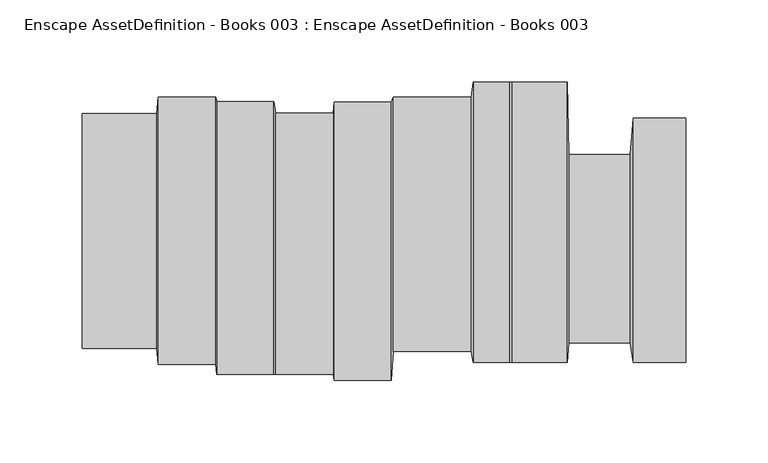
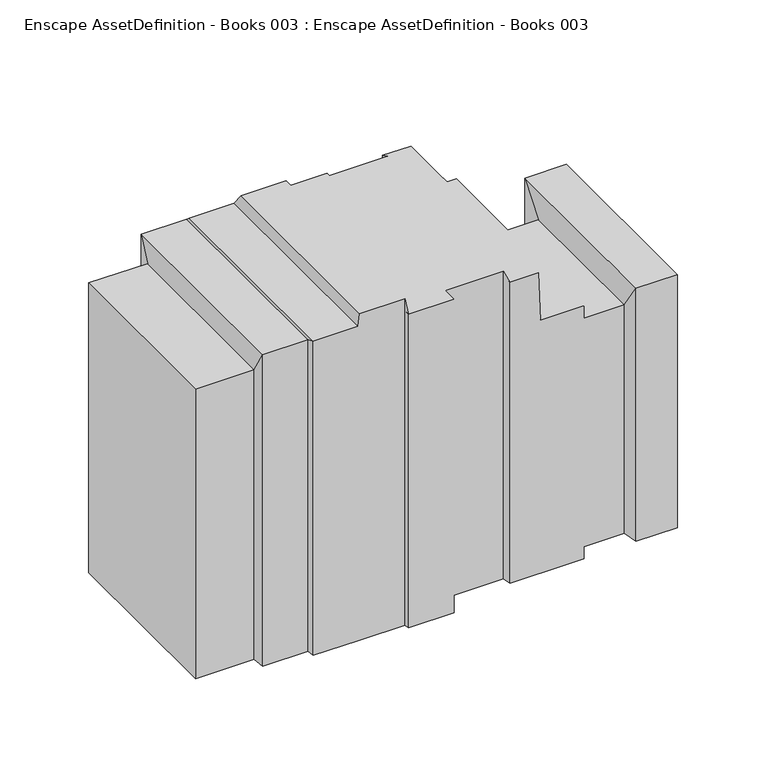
"""IFC4 building model written with IfcOpenShell, lengths in millimetres: geographic element geometry, Enscape AssetDefinition - Books 003 : Enscape AssetDefinition - Books 003."""

from ifc_helpers import new_model, si_unit, origin, place, context, project, spatial, triangles, source, transform, mapped, element, save


def enscape_assetdefinition_books_003_enscape_assetdefinition_db4c60ca(model_context):
    return source(origin(), model_context, "Body", "Tessellation", [
        triangles([(-183.8806548, -70.9984325, 236.8974586), (-183.8806548, 72.1375345, 236.8974586), (-183.8806548, -70.9984325, 0.0), (-183.8806548, 72.1375345, 0.0), (-138.4955526, 72.1375345, 236.8974586), (-138.4955526, -70.9984325, 0.0), (-137.5154525, -80.7373139, 0.0), (-138.4955526, -70.9984325, 236.8974586), (-137.5154525, 82.1384457, 254.4940408), (-138.4955526, 72.1375345, 0.0), (-102.5742986, -80.7373139, 0.0), (-137.5154525, -80.7373139, 254.4940408), (-102.5742986, -80.7373139, 254.4940408), (-137.5154525, 82.1384457, 0.0), (-102.5742986, 82.1384457, 254.4940408), (-102.5742986, 82.1384457, 0.0), (-102.0012322, 79.2971856, 0.0), (-102.0012322, 79.2971856, 256.8992719), (-102.0012322, -86.8318638, 0.0), (-67.3060934, 79.2971856, 256.8992719), (-102.0012322, -86.8318638, 256.8992719), (-67.3060934, -86.8318638, 0.0), (-67.3060934, -86.8318638, 256.8992719), (-67.3060934, 79.2971856, 0.0), (-65.9999776, 72.1375345, 266.9001876), (-65.9999776, 72.1375345, 0.0), (-65.9999776, -86.8318638, 0.0), (-65.9999776, -86.8318638, 266.9001876), (-31.0588123, 72.1375345, 0.0), (-31.0588123, -86.8318638, 0.0), (-30.4057544, 79.1381746, 0.0), (-30.4057544, 79.1381746, 256.4822371), (-30.4057544, -90.7102153, 0.0), (-31.0588123, -86.8318638, 266.9001876), (-30.4057544, -90.7102153, 256.4822371), (-31.0588123, 72.1375345, 266.9001876), (4.5354111, -90.7102153, 256.4822371), (4.5354111, 79.1381746, 0.0), (4.5354111, -90.7102153, 0.0), (4.5354111, 79.1381746, 256.4822371), (5.5155001, -72.9986147, 0.0), (5.5155001, 82.1384457, 251.3887798), (5.5155001, 82.1384457, 0.0), (53.1918205, -72.9986147, 0.0), (53.1918205, -72.9986147, 251.3887798), (5.5155001, -72.9986147, 251.3887798), (53.1918205, 82.1384457, 251.3887798), (54.4979362, 91.2622619, 0.0), (53.1918205, 82.1384457, 0.0), (54.4979362, -79.6782216, 0.0), (54.4979362, -79.6782216, 246.0832897), (54.4979362, 91.2622619, 246.0832897), (76.5739416, -79.6782216, 246.0832897), (76.5739416, 91.2622619, 246.0832897), (76.5739416, 91.2622619, 0.0), (76.5739416, -79.6782216, 0.0), (77.906055, 91.2622619, 206.8947478), (78.0160683, -79.6782216, 0.0), (77.906055, -79.6782216, 206.8947478), (111.6451112, -79.6782216, 206.8947478), (78.0160683, 91.2622619, 0.0), (111.6451112, 91.2622619, 206.8947478), (111.6451112, 91.2622619, 0.0), (112.6252022, 47.1622739, 0.0), (111.6451112, -79.6782216, 0.0), (112.6252022, 47.1622739, 186.8929346), (112.6252022, -67.6861347, 0.0), (112.6252022, -67.6861347, 186.8929346), (149.8525719, 47.1622739, 186.8929346), (149.8525719, 47.1622739, 0.0), (149.8525719, -67.6861347, 0.0), (151.8117456, -79.5642024, 0.0), (149.8525719, -67.6861347, 186.8929346), (151.8117456, 69.1462609, 0.0), (151.8117456, -79.5642024, 206.8947478), (183.8606524, 69.1462609, 0.0), (151.8117456, 69.1462609, 206.8947478), (183.8606524, 69.1462609, 206.8947478), (183.8606524, -79.5642024, 206.8947478), (183.8606524, -79.5642024, 0.0)], [[79, 80, 76], [79, 76, 78], [79, 78, 77], [76, 74, 77], [78, 76, 77], [80, 79, 75], [75, 79, 77], [76, 80, 72], [72, 80, 75], [74, 76, 72], [74, 72, 71], [74, 70, 77], [70, 74, 71], [70, 69, 77], [75, 77, 69], [72, 75, 73], [71, 72, 73], [73, 75, 69], [71, 73, 68], [70, 71, 67], [67, 71, 68], [70, 64, 69], [64, 70, 67], [64, 66, 69], [73, 69, 66], [68, 73, 66], [68, 66, 62], [67, 68, 60], [60, 68, 62], [64, 67, 65], [65, 67, 60], [63, 62, 66], [64, 63, 66], [63, 64, 65], [63, 61, 62], [60, 62, 57], [61, 57, 62], [65, 60, 59], [59, 60, 57], [63, 65, 58], [58, 65, 59], [61, 63, 58], [61, 58, 56], [61, 55, 57], [55, 61, 56], [55, 54, 57], [59, 57, 54], [58, 59, 53], [56, 58, 53], [53, 59, 54], [56, 53, 51], [55, 56, 50], [50, 56, 51], [55, 48, 54], [48, 55, 50], [48, 52, 54], [53, 54, 52], [51, 53, 52], [51, 52, 47], [50, 51, 45], [45, 51, 47], [48, 50, 44], [44, 50, 45], [49, 47, 52], [48, 49, 52], [49, 48, 44], [49, 43, 47], [43, 42, 47], [45, 47, 42], [44, 45, 46], [46, 45, 42], [49, 44, 41], [41, 44, 46], [43, 49, 41], [43, 41, 39], [43, 38, 42], [38, 43, 39], [38, 40, 42], [46, 42, 40], [41, 46, 37], [39, 41, 37], [37, 46, 40], [39, 37, 35], [38, 39, 33], [33, 39, 35], [38, 31, 40], [31, 38, 33], [31, 32, 40], [37, 40, 32], [35, 37, 32], [35, 32, 36], [33, 35, 34], [34, 35, 36], [31, 33, 30], [30, 33, 34], [29, 36, 32], [31, 29, 32], [29, 31, 30], [29, 26, 36], [26, 25, 36], [34, 36, 25], [30, 34, 28], [28, 34, 25], [29, 30, 27], [27, 30, 28], [26, 29, 27], [26, 27, 22], [26, 24, 25], [24, 26, 22], [24, 20, 25], [28, 25, 20], [27, 28, 23], [22, 27, 23], [23, 28, 20], [22, 23, 21], [24, 22, 19], [19, 22, 21], [24, 17, 20], [17, 24, 19], [17, 18, 20], [23, 20, 18], [21, 23, 18], [21, 18, 15], [19, 21, 13], [13, 21, 15], [17, 19, 11], [11, 19, 13], [16, 15, 18], [17, 16, 18], [16, 17, 11], [16, 14, 15], [14, 9, 15], [13, 15, 9], [14, 10, 9], [11, 13, 12], [12, 13, 9], [16, 11, 7], [7, 11, 12], [14, 16, 7], [14, 7, 6], [10, 14, 6], [4, 10, 6], [10, 5, 9], [12, 9, 5], [10, 4, 5], [7, 12, 8], [6, 7, 8], [8, 12, 5], [3, 6, 8], [3, 4, 6], [4, 2, 5], [2, 4, 3], [8, 5, 2], [2, 3, 1], [1, 3, 8], [1, 8, 2]]),
    ])


if __name__ == "__main__":
    model = new_model("IFC4")
    model_context = context("Model", 3, world=origin())
    ifc_project = project(units=[si_unit("LENGTHUNIT", "METRE", prefix="MILLI")], contexts=[model_context])
    site = spatial("IfcSite", under=ifc_project)
    building = spatial("IfcBuilding", under=site)
    placement = place(None, origin())
    enscape_assetdefinition_books_003_enscape_assetdefinition_shape = enscape_assetdefinition_books_003_enscape_assetdefinition_db4c60ca(model_context)
    element("IfcGeographicElement", 1, ObjectType="Enscape AssetDefinition - Books 003 : Enscape AssetDefinition - Books 003", at=placement, inside=building, context=model_context, shape_type="MappedRepresentation", body=[
        mapped(enscape_assetdefinition_books_003_enscape_assetdefinition_shape, transform((0.0, 0.0, 0.0), x_axis=(1.0, 0.0, 0.0), y_axis=(0.0, 1.0, 0.0), z_axis=(0.0, 0.0, 1.0))),
    ])
    save(model, "model.ifc")
